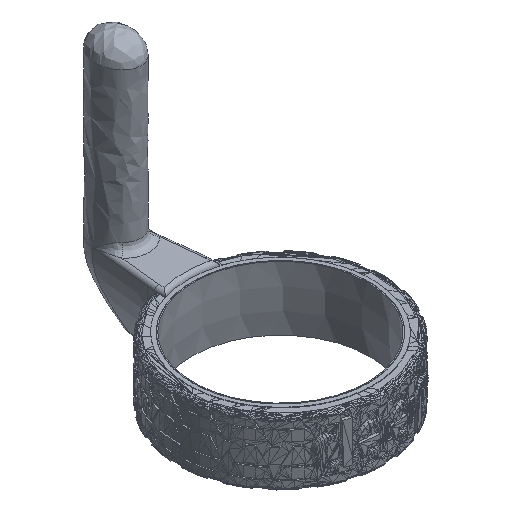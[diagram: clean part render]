
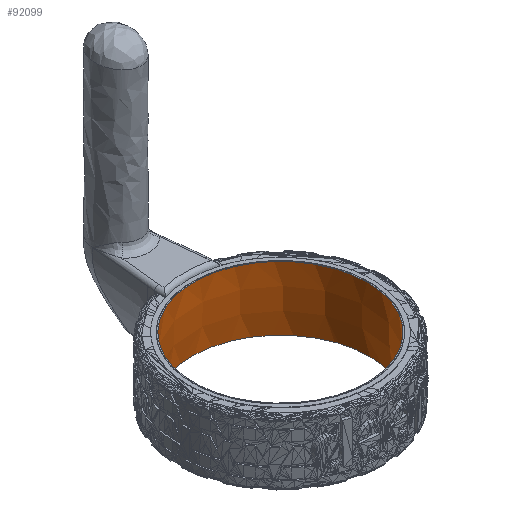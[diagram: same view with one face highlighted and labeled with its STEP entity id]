
A CAD part, isometric view. The second image highlights one B-rep face of the part: STEP entity #92099.
In plain terms, the highlighted conical face has half-angle 1.771 degrees and reference radius 50.725 mm.
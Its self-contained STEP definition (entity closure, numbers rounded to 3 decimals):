
#20=CONICAL_SURFACE('',#99287,50.725,0.031);
#47076=ORIENTED_EDGE('',*,*,#58903,.T.);
#47077=ORIENTED_EDGE('',*,*,#47260,.F.);
#47078=ORIENTED_EDGE('',*,*,#47225,.F.);
#47079=ORIENTED_EDGE('',*,*,#47809,.F.);
#47080=ORIENTED_EDGE('',*,*,#47258,.F.);
#47081=ORIENTED_EDGE('',*,*,#47264,.F.);
#47082=ORIENTED_EDGE('',*,*,#47093,.F.);
#47083=ORIENTED_EDGE('',*,*,#47839,.F.);
#47084=ORIENTED_EDGE('',*,*,#58824,.F.);
#47085=ORIENTED_EDGE('',*,*,#47117,.F.);
#47086=ORIENTED_EDGE('',*,*,#47826,.F.);
#47087=ORIENTED_EDGE('',*,*,#47828,.F.);
#47088=ORIENTED_EDGE('',*,*,#47829,.F.);
#47089=ORIENTED_EDGE('',*,*,#47276,.F.);
#47090=ORIENTED_EDGE('',*,*,#47179,.F.);
#47091=ORIENTED_EDGE('',*,*,#47283,.F.);
#47092=ORIENTED_EDGE('',*,*,#47820,.F.);
#47093=EDGE_CURVE('',#58904,#58905,#63596,.T.);
#47117=EDGE_CURVE('',#58928,#58929,#63600,.T.);
#47179=EDGE_CURVE('',#58990,#58991,#63612,.T.);
#47225=EDGE_CURVE('',#59036,#59037,#63617,.T.);
#47258=EDGE_CURVE('',#59054,#59055,#63618,.T.);
#47260=EDGE_CURVE('',#59037,#59056,#63619,.T.);
#47264=EDGE_CURVE('',#58905,#59054,#63620,.T.);
#47276=EDGE_CURVE('',#58991,#59065,#63621,.T.);
#47283=EDGE_CURVE('',#59070,#58990,#63622,.T.);
#47809=EDGE_CURVE('',#59055,#59036,#63625,.T.);
#47820=EDGE_CURVE('',#59056,#59070,#63628,.T.);
#47826=EDGE_CURVE('',#59437,#58928,#63629,.T.);
#47828=EDGE_CURVE('',#59438,#59437,#63630,.T.);
#47829=EDGE_CURVE('',#59065,#59438,#63631,.T.);
#47839=EDGE_CURVE('',#59443,#58904,#63632,.T.);
#58824=EDGE_CURVE('',#58929,#59443,#63633,.T.);
#58903=EDGE_CURVE('',#63595,#63595,#63637,.F.);
#58904=VERTEX_POINT('',#125281);
#58905=VERTEX_POINT('',#125282);
#58928=VERTEX_POINT('',#125330);
#58929=VERTEX_POINT('',#125331);
#58990=VERTEX_POINT('',#125455);
#58991=VERTEX_POINT('',#125456);
#59036=VERTEX_POINT('',#125601);
#59037=VERTEX_POINT('',#125602);
#59054=VERTEX_POINT('',#125668);
#59055=VERTEX_POINT('',#125670);
#59056=VERTEX_POINT('',#125674);
#59065=VERTEX_POINT('',#125704);
#59070=VERTEX_POINT('',#125717);
#59437=VERTEX_POINT('',#127024);
#59438=VERTEX_POINT('',#127028);
#59443=VERTEX_POINT('',#127049);
#63595=VERTEX_POINT('',#150664);
#63596=CIRCLE('',#92114,50.725);
#63600=CIRCLE('',#92119,50.725);
#63612=CIRCLE('',#92132,50.725);
#63617=CIRCLE('',#92138,50.725);
#63618=CIRCLE('',#92155,50.725);
#63619=CIRCLE('',#92157,50.725);
#63620=CIRCLE('',#92160,50.725);
#63621=CIRCLE('',#92169,50.725);
#63622=CIRCLE('',#92173,50.725);
#63625=CIRCLE('',#92332,50.725);
#63628=CIRCLE('',#92345,50.725);
#63629=CIRCLE('',#92348,50.725);
#63630=CIRCLE('',#92350,50.725);
#63631=CIRCLE('',#92352,50.725);
#63632=CIRCLE('',#92358,50.725);
#63633=CIRCLE('',#99228,50.725);
#63637=CIRCLE('',#99281,49.572);
#70765=EDGE_LOOP('',(#47076));
#70766=EDGE_LOOP('',(#47077,#47078,#47079,#47080,#47081,#47082,#47083,#47084,
#47085,#47086,#47087,#47088,#47089,#47090,#47091,#47092));
#77894=FACE_BOUND('',#70765,.T.);
#77895=FACE_BOUND('',#70766,.T.);
#92099=ADVANCED_FACE('',(#77894,#77895),#20,.F.);
#92114=AXIS2_PLACEMENT_3D('',#125280,#99292,#99293);
#92119=AXIS2_PLACEMENT_3D('',#125329,#99322,#99323);
#92132=AXIS2_PLACEMENT_3D('',#125454,#99398,#99399);
#92138=AXIS2_PLACEMENT_3D('',#125600,#99443,#99444);
#92155=AXIS2_PLACEMENT_3D('',#125669,#99502,#99503);
#92157=AXIS2_PLACEMENT_3D('',#125673,#99507,#99508);
#92160=AXIS2_PLACEMENT_3D('',#125681,#99515,#99516);
#92169=AXIS2_PLACEMENT_3D('',#125703,#99540,#99541);
#92173=AXIS2_PLACEMENT_3D('',#125718,#99553,#99554);
#92332=AXIS2_PLACEMENT_3D('',#126993,#100346,#100347);
#92345=AXIS2_PLACEMENT_3D('',#127012,#100377,#100378);
#92348=AXIS2_PLACEMENT_3D('',#127025,#100387,#100388);
#92350=AXIS2_PLACEMENT_3D('',#127029,#100392,#100393);
#92352=AXIS2_PLACEMENT_3D('',#127031,#100396,#100397);
#92358=AXIS2_PLACEMENT_3D('',#127050,#100416,#100417);
#99228=AXIS2_PLACEMENT_3D('',#149020,#125139,#125140);
#99281=AXIS2_PLACEMENT_3D('',#150663,#125264,#125265);
#99287=AXIS2_PLACEMENT_3D('',#150670,#125276,#125277);
#99292=DIRECTION('',(0.,0.,1.));
#99293=DIRECTION('',(1.,0.,0.));
#99322=DIRECTION('',(0.,0.,1.));
#99323=DIRECTION('',(1.,0.,0.));
#99398=DIRECTION('',(0.,0.,1.));
#99399=DIRECTION('',(1.,0.,0.));
#99443=DIRECTION('',(0.,0.,1.));
#99444=DIRECTION('',(1.,0.,0.));
#99502=DIRECTION('',(0.,0.,1.));
#99503=DIRECTION('',(-0.971,0.239,0.));
#99507=DIRECTION('',(0.,0.,1.));
#99508=DIRECTION('',(-0.971,0.239,0.));
#99515=DIRECTION('',(0.,0.,1.));
#99516=DIRECTION('',(-0.971,0.239,0.));
#99540=DIRECTION('',(0.,0.,1.));
#99541=DIRECTION('',(-0.971,0.239,0.));
#99553=DIRECTION('',(0.,0.,1.));
#99554=DIRECTION('',(-0.971,0.239,0.));
#100346=DIRECTION('',(0.,0.,1.));
#100347=DIRECTION('',(-0.971,0.239,0.));
#100377=DIRECTION('',(0.,0.,1.));
#100378=DIRECTION('',(-0.971,0.239,0.));
#100387=DIRECTION('',(0.,0.,1.));
#100388=DIRECTION('',(-0.971,0.239,0.));
#100392=DIRECTION('',(0.,0.,1.));
#100393=DIRECTION('',(-0.971,0.239,0.));
#100396=DIRECTION('',(0.,0.,1.));
#100397=DIRECTION('',(-0.971,0.239,0.));
#100416=DIRECTION('',(0.,0.,1.));
#100417=DIRECTION('',(-0.971,0.239,0.));
#125139=DIRECTION('',(0.,0.,1.));
#125140=DIRECTION('',(-0.971,0.239,0.));
#125264=DIRECTION('',(0.,0.,-1.));
#125265=DIRECTION('',(1.,0.,0.));
#125276=DIRECTION('',(0.,0.,-1.));
#125277=DIRECTION('',(-1.,0.,0.));
#125280=CARTESIAN_POINT('',(8.917,-17.907,0.));
#125281=CARTESIAN_POINT('',(24.512,-66.175,0.));
#125282=CARTESIAN_POINT('',(56.17,-36.352,0.));
#125329=CARTESIAN_POINT('',(8.917,-17.907,0.));
#125330=CARTESIAN_POINT('',(-32.067,11.981,0.));
#125331=CARTESIAN_POINT('',(23.154,-66.593,0.));
#125454=CARTESIAN_POINT('',(8.917,-17.907,0.));
#125455=CARTESIAN_POINT('',(56.744,-1.008,0.));
#125456=CARTESIAN_POINT('',(-28.116,16.757,0.));
#125600=CARTESIAN_POINT('',(8.917,-17.907,0.));
#125601=CARTESIAN_POINT('',(57.133,-33.662,0.));
#125602=CARTESIAN_POINT('',(57.365,-2.879,0.));
#125668=CARTESIAN_POINT('',(56.2,-36.273,0.));
#125669=CARTESIAN_POINT('',(8.917,-17.907,0.));
#125670=CARTESIAN_POINT('',(56.876,-34.428,0.));
#125673=CARTESIAN_POINT('',(8.917,-17.907,0.));
#125674=CARTESIAN_POINT('',(56.982,-1.696,0.));
#125681=CARTESIAN_POINT('',(8.917,-17.907,0.));
#125703=CARTESIAN_POINT('',(8.917,-17.907,0.));
#125704=CARTESIAN_POINT('',(-28.159,16.711,0.));
#125717=CARTESIAN_POINT('',(56.748,-1.017,0.));
#125718=CARTESIAN_POINT('',(8.917,-17.907,0.));
#126993=CARTESIAN_POINT('',(8.917,-17.907,0.));
#127012=CARTESIAN_POINT('',(8.917,-17.907,0.));
#127024=CARTESIAN_POINT('',(-30.765,13.69,0.));
#127025=CARTESIAN_POINT('',(8.917,-17.907,0.));
#127028=CARTESIAN_POINT('',(-29.545,15.164,0.));
#127029=CARTESIAN_POINT('',(8.917,-17.907,0.));
#127031=CARTESIAN_POINT('',(8.917,-17.907,0.));
#127049=CARTESIAN_POINT('',(24.498,-66.18,0.));
#127050=CARTESIAN_POINT('',(8.917,-17.907,0.));
#149020=CARTESIAN_POINT('',(8.917,-17.907,0.));
#150663=CARTESIAN_POINT('',(8.917,-17.907,37.294));
#150664=CARTESIAN_POINT('',(58.489,-17.907,37.294));
#150670=CARTESIAN_POINT('',(8.917,-17.907,0.));
